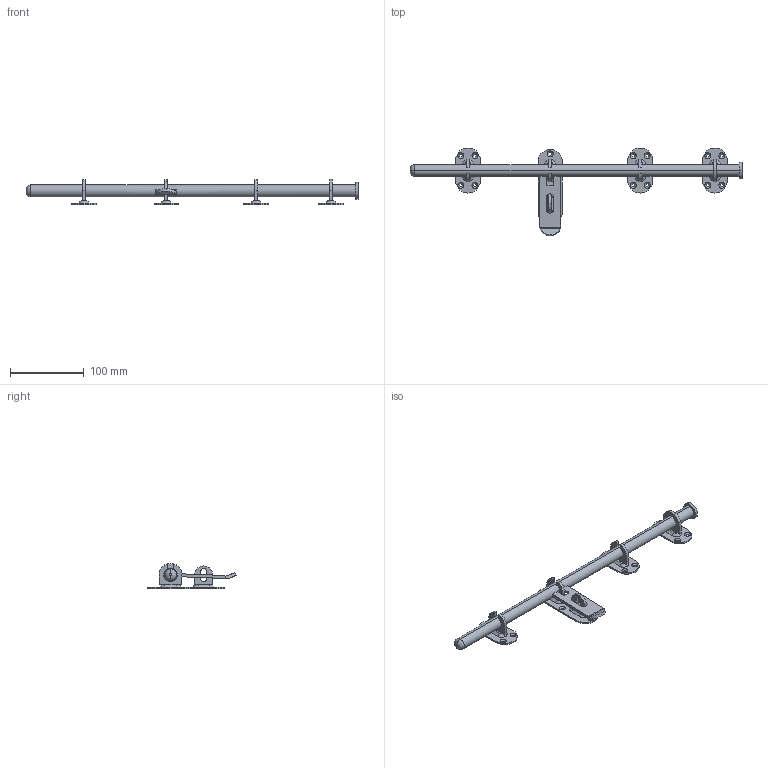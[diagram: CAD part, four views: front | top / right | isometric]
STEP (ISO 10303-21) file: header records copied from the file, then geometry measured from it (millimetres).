
FILE_DESCRIPTION (( 'STEP AP203' ), '1' );
FILE_NAME ('DL-136S-2.STEP', '2013-07-06T04:40:08', ( 'SDS' ), ( 'SDS' ), 'SwSTEP 2.0', 'SolidWorks 2002296', '' );
FILE_SCHEMA (( 'CONFIG_CONTROL_DESIGN' ));
Length unit declared in the file: millimetre
Products named in the file (5): DL-136S-2; DL-136S-2-1_蹬怮椔; DL-136S-2-2_蹬怮椔; DL-136S-2-4_蹬怮椔; DL-136S-2-3_蹬怮椔
Assembly tree (5 placements, depth 2):
  DL-136S-2
    DL-136S-2-3_蹬怮椔  x2
    DL-136S-2-2_蹬怮椔
    DL-136S-2-1_蹬怮椔
    DL-136S-2-4_蹬怮椔
Bounding box: 450 x 119.3 x 34 mm (x, y, z)
Volume: 127569 mm3; surface area: 53711.6 mm2
Topology: 5 solids, 5 shells, 174 faces, 451 edges, 292 vertices
Faces by surface type: plane 89, cone 42, cylinder 41, torus 2
Entity records: 5003 total; most frequent: DIRECTION 812, CARTESIAN_POINT 792, ORIENTED_EDGE 736, EDGE_CURVE 368, AXIS2_PLACEMENT_3D 302, VERTEX_POINT 238, LINE 208, VECTOR 208
